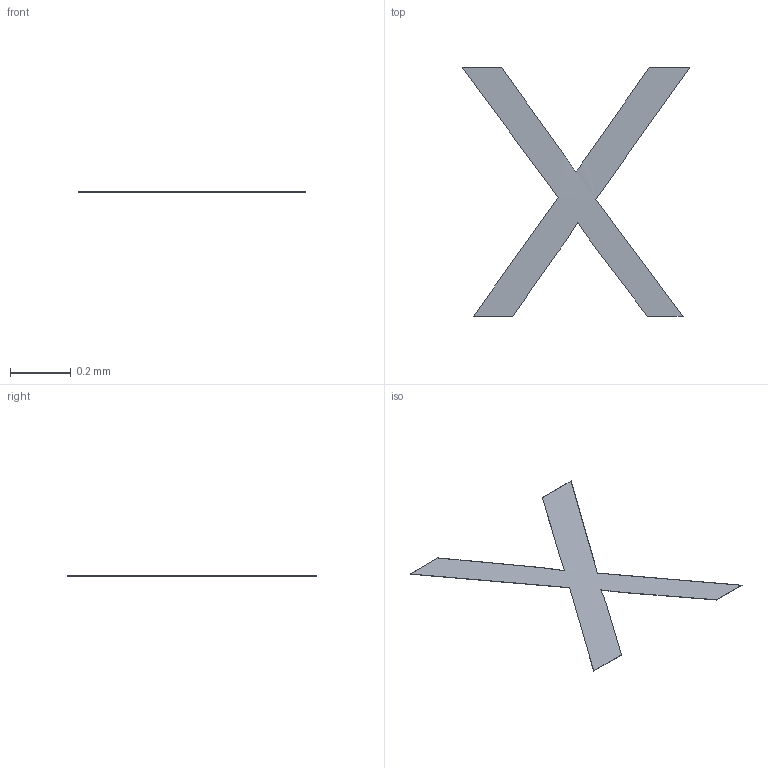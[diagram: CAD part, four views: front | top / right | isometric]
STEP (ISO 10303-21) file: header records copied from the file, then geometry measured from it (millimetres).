
FILE_DESCRIPTION(/* description */ ('STEP AP242 Edition 2','CAx-IF Rec.Pracs.---Representation and Presentation of Product Manufacturing Information (PMI)---4.0---2014-10-13','CAx-IF Rec.Pracs.---3D Tessellated Geometry---0.4---2014-09-14','2;1','CAx-IF Rec.Pracs.---User Defined Attributes---1.5---2016-08-15'),/* implementation_level */ '2;1');
FILE_NAME(/* name */ 'Drone Layout - Surface 342',/* time_stamp */ '2026-10-04T22:22:56Z',/* author */ (''),/* organization */ (''),/* preprocessor_version */ 'ST-DEVELOPER v20',/* originating_system */ 'ONSHAPE BY PTC INC, 1.221',/* authorisation */ ' ');
FILE_SCHEMA (('AP242_MANAGED_MODEL_BASED_3D_ENGINEERING_MIM_LF { 1 0 10303 442 3 1 4 }'));
Length unit declared in the file: metre
Products named in the file (1): VL53L0X:1__Body32
Bounding box: 0.75 x 0.82 x 0 mm (x, y, z)
Volume: 0 mm3; surface area: 0.4 mm2
Topology: 1 solids, 1 shells, 18 faces, 46 edges, 30 vertices
Faces by surface type: plane 14, cylinder 3, bspline 1
Entity records: 568 total; most frequent: CARTESIAN_POINT 117, ORIENTED_EDGE 92, DIRECTION 86, EDGE_CURVE 46, LINE 38, VECTOR 38, VERTEX_POINT 30, AXIS2_PLACEMENT_3D 24
